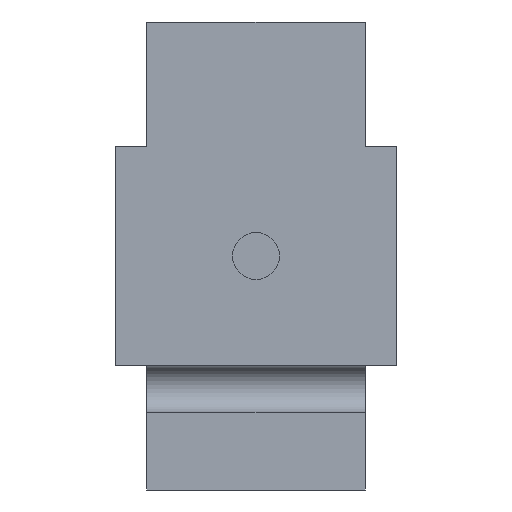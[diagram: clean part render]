
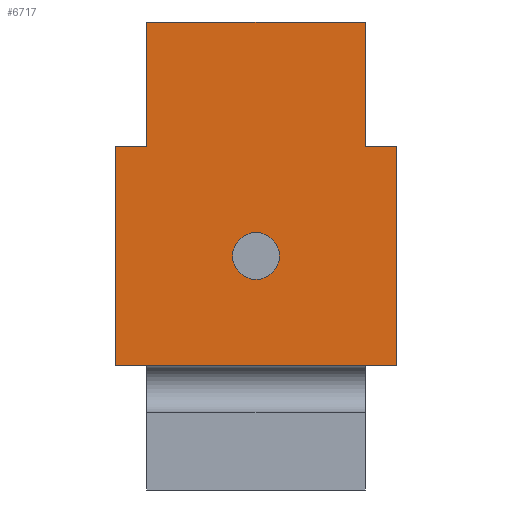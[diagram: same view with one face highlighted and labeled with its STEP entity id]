
A CAD part, left-side view. The second image highlights one B-rep face of the part: STEP entity #6717.
In plain terms, the highlighted planar face has unit normal (-1, 0, 0).
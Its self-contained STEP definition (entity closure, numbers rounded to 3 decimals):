
#5=DIRECTION('',(0.,0.,1.));
#6=VECTOR('',#5,8.);
#7=CARTESIAN_POINT('',(-15.,-7.,7.));
#8=LINE('',#7,#6);
#63=DIRECTION('',(0.,1.,0.));
#64=VECTOR('',#63,2.);
#65=CARTESIAN_POINT('',(-15.,-9.,7.));
#66=LINE('',#65,#64);
#76=DIRECTION('',(0.,0.,1.));
#77=VECTOR('',#76,14.);
#78=CARTESIAN_POINT('',(-15.,-9.,-7.));
#79=LINE('',#78,#77);
#151=DIRECTION('',(0.,-1.,0.));
#152=VECTOR('',#151,18.);
#153=CARTESIAN_POINT('',(-15.,9.,-7.));
#154=LINE('',#153,#152);
#353=DIRECTION('',(0.,1.,0.));
#354=VECTOR('',#353,14.);
#355=CARTESIAN_POINT('',(-15.,-7.,15.));
#356=LINE('',#355,#354);
#443=CARTESIAN_POINT('',(-15.,0.,0.));
#444=DIRECTION('',(-1.,0.,0.));
#445=DIRECTION('',(0.,1.,0.));
#446=AXIS2_PLACEMENT_3D('',#443,#444,#445);
#448=CARTESIAN_POINT('',(-15.,0.,0.));
#449=DIRECTION('',(-1.,0.,0.));
#450=DIRECTION('',(0.,-1.,0.));
#451=AXIS2_PLACEMENT_3D('',#448,#449,#450);
#471=DIRECTION('',(0.,0.,1.));
#472=VECTOR('',#471,14.);
#473=CARTESIAN_POINT('',(-15.,9.,-7.));
#474=LINE('',#473,#472);
#563=DIRECTION('',(0.,0.,1.));
#564=VECTOR('',#563,8.);
#565=CARTESIAN_POINT('',(-15.,7.,7.));
#566=LINE('',#565,#564);
#571=DIRECTION('',(0.,1.,0.));
#572=VECTOR('',#571,2.);
#573=CARTESIAN_POINT('',(-15.,7.,7.));
#574=LINE('',#573,#572);
#5929=CARTESIAN_POINT('',(-15.,-7.,15.));
#5931=VERTEX_POINT('',#5929);
#5951=CARTESIAN_POINT('',(-15.,7.,15.));
#5953=VERTEX_POINT('',#5951);
#6233=CARTESIAN_POINT('',(-15.,7.,7.));
#6235=VERTEX_POINT('',#6233);
#6239=CARTESIAN_POINT('',(-15.,9.,-7.));
#6240=CARTESIAN_POINT('',(-15.,9.,7.));
#6241=VERTEX_POINT('',#6239);
#6242=VERTEX_POINT('',#6240);
#6263=CARTESIAN_POINT('',(-15.,-9.,-7.));
#6264=CARTESIAN_POINT('',(-15.,-9.,7.));
#6265=VERTEX_POINT('',#6263);
#6266=VERTEX_POINT('',#6264);
#6267=CARTESIAN_POINT('',(-15.,-7.,7.));
#6269=VERTEX_POINT('',#6267);
#6297=CARTESIAN_POINT('',(-15.,1.5,0.));
#6298=CARTESIAN_POINT('',(-15.,-1.5,0.));
#6299=VERTEX_POINT('',#6297);
#6300=VERTEX_POINT('',#6298);
#6693=CARTESIAN_POINT('',(-15.,-7.,-7.));
#6694=DIRECTION('',(-1.,0.,0.));
#6695=DIRECTION('',(0.,0.,1.));
#6696=AXIS2_PLACEMENT_3D('',#6693,#6694,#6695);
#6697=PLANE('',#6696);
#6698=ORIENTED_EDGE('',*,*,#6350,.F.);
#6699=ORIENTED_EDGE('',*,*,#6384,.F.);
#6700=ORIENTED_EDGE('',*,*,#6471,.F.);
#6702=ORIENTED_EDGE('',*,*,#6701,.T.);
#6704=ORIENTED_EDGE('',*,*,#6703,.F.);
#6706=ORIENTED_EDGE('',*,*,#6705,.T.);
#6707=ORIENTED_EDGE('',*,*,#6661,.F.);
#6708=ORIENTED_EDGE('',*,*,#6312,.F.);
#6709=EDGE_LOOP('',(#6698,#6699,#6700,#6702,#6704,#6706,#6707,#6708));
#6710=FACE_OUTER_BOUND('',#6709,.F.);
#6712=ORIENTED_EDGE('',*,*,#6711,.T.);
#6714=ORIENTED_EDGE('',*,*,#6713,.T.);
#6715=EDGE_LOOP('',(#6712,#6714));
#6716=FACE_BOUND('',#6715,.F.);
#447=CIRCLE('',#446,1.5);
#452=CIRCLE('',#451,1.5);
#6312=EDGE_CURVE('',#6269,#5931,#8,.T.);
#6350=EDGE_CURVE('',#6266,#6269,#66,.T.);
#6384=EDGE_CURVE('',#6265,#6266,#79,.T.);
#6471=EDGE_CURVE('',#6241,#6265,#154,.T.);
#6661=EDGE_CURVE('',#5931,#5953,#356,.T.);
#6701=EDGE_CURVE('',#6241,#6242,#474,.T.);
#6703=EDGE_CURVE('',#6235,#6242,#574,.T.);
#6705=EDGE_CURVE('',#6235,#5953,#566,.T.);
#6711=EDGE_CURVE('',#6299,#6300,#447,.T.);
#6713=EDGE_CURVE('',#6300,#6299,#452,.T.);
#6717=ADVANCED_FACE('',(#6710,#6716),#6697,.T.);
